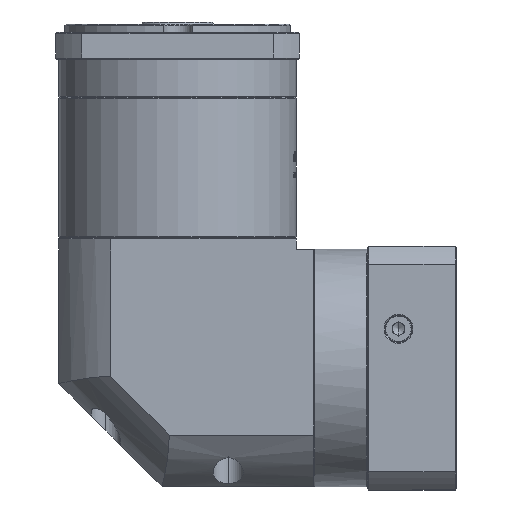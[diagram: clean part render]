
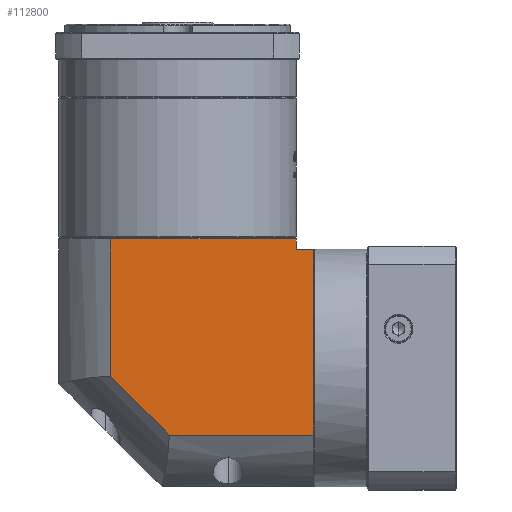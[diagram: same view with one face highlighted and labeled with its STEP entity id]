
A CAD part, left-side view. The second image highlights one B-rep face of the part: STEP entity #112800.
In plain terms, the highlighted planar face has unit normal (-1, 0, 0).
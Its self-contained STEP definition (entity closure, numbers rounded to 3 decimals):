
#6916 = VERTEX_POINT ( 'NONE', #132498 ) ;
#23974 = CARTESIAN_POINT ( 'NONE',  ( -266.518, -89.533, 87.796 ) ) ;
#23987 = CARTESIAN_POINT ( 'NONE',  ( -266.518, -89.533, 82.796 ) ) ;
#26627 = DIRECTION ( 'NONE',  ( 1., 0., 0. ) ) ;
#28039 = AXIS2_PLACEMENT_3D ( 'NONE', #125843, #26627, #65854 ) ;
#30611 = DIRECTION ( 'NONE',  ( 0., -1., 0. ) ) ;
#33558 = DIRECTION ( 'NONE',  ( 0., 0., 1. ) ) ;
#36029 = VERTEX_POINT ( 'NONE', #79298 ) ;
#40312 = CARTESIAN_POINT ( 'NONE',  ( -266.518, -97.933, 94.296 ) ) ;
#49388 = LINE ( 'NONE', #108680, #69126 ) ;
#52400 = EDGE_LOOP ( 'NONE', ( #82335, #117150, #139548, #153840, #148383, #62399, #103283 ) ) ;
#53737 = LINE ( 'NONE', #65193, #121242 ) ;
#55618 = CARTESIAN_POINT ( 'NONE',  ( -266.518, 0.367, 87.796 ) ) ;
#60024 = LINE ( 'NONE', #40312, #113699 ) ;
#62399 = ORIENTED_EDGE ( 'NONE', *, *, #104052, .T. ) ;
#63745 = EDGE_CURVE ( 'NONE', #161948, #137167, #81963, .T. ) ;
#65193 = CARTESIAN_POINT ( 'NONE',  ( -266.518, 25.467, -7.104 ) ) ;
#65854 = DIRECTION ( 'NONE',  ( 0., 1., 0. ) ) ;
#67203 = VERTEX_POINT ( 'NONE', #55618 ) ;
#68116 = VECTOR ( 'NONE', #33558, 1000. ) ;
#69126 = VECTOR ( 'NONE', #30611, 1000. ) ;
#74129 = VECTOR ( 'NONE', #119702, 1000. ) ;
#76337 = EDGE_CURVE ( 'NONE', #161948, #36029, #60024, .T. ) ;
#77976 = EDGE_CURVE ( 'NONE', #6916, #103941, #97206, .T. ) ;
#79298 = CARTESIAN_POINT ( 'NONE',  ( -266.518, -97.933, -7.104 ) ) ;
#81963 = LINE ( 'NONE', #23987, #139482 ) ;
#82335 = ORIENTED_EDGE ( 'NONE', *, *, #140641, .F. ) ;
#82894 = FACE_OUTER_BOUND ( 'NONE', #52400, .T. ) ;
#88614 = VERTEX_POINT ( 'NONE', #23974 ) ;
#94560 = CARTESIAN_POINT ( 'NONE',  ( -266.518, 0.367, 21.234 ) ) ;
#97206 = LINE ( 'NONE', #98172, #144672 ) ;
#98172 = CARTESIAN_POINT ( 'NONE',  ( -266.518, -27.971, -7.104 ) ) ;
#101326 = DIRECTION ( 'NONE',  ( 0., 1., 0. ) ) ;
#101896 = LINE ( 'NONE', #134905, #68116 ) ;
#103283 = ORIENTED_EDGE ( 'NONE', *, *, #154849, .F. ) ;
#103941 = VERTEX_POINT ( 'NONE', #94560 ) ;
#104052 = EDGE_CURVE ( 'NONE', #137167, #88614, #101896, .T. ) ;
#106450 = CARTESIAN_POINT ( 'NONE',  ( -266.518, 0.367, 94.296 ) ) ;
#108680 = CARTESIAN_POINT ( 'NONE',  ( -266.518, 25.467, 87.796 ) ) ;
#112800 = ADVANCED_FACE ( 'NONE', ( #82894 ), #148694, .F. ) ;
#113699 = VECTOR ( 'NONE', #129547, 1000. ) ;
#117150 = ORIENTED_EDGE ( 'NONE', *, *, #77976, .F. ) ;
#119702 = DIRECTION ( 'NONE',  ( 0., 0., 1. ) ) ;
#121242 = VECTOR ( 'NONE', #101326, 1000. ) ;
#122529 = DIRECTION ( 'NONE',  ( 0., 0.707, 0.707 ) ) ;
#125843 = CARTESIAN_POINT ( 'NONE',  ( -266.518, 25.467, 94.296 ) ) ;
#127432 = EDGE_CURVE ( 'NONE', #36029, #6916, #53737, .T. ) ;
#129547 = DIRECTION ( 'NONE',  ( 0., 0., -1. ) ) ;
#132498 = CARTESIAN_POINT ( 'NONE',  ( -266.518, -27.971, -7.104 ) ) ;
#134905 = CARTESIAN_POINT ( 'NONE',  ( -266.518, -89.533, -32.204 ) ) ;
#137167 = VERTEX_POINT ( 'NONE', #160351 ) ;
#139482 = VECTOR ( 'NONE', #163502, 1000. ) ;
#139548 = ORIENTED_EDGE ( 'NONE', *, *, #127432, .F. ) ;
#140609 = CARTESIAN_POINT ( 'NONE',  ( -266.518, -97.933, 82.796 ) ) ;
#140641 = EDGE_CURVE ( 'NONE', #103941, #67203, #163287, .T. ) ;
#144672 = VECTOR ( 'NONE', #122529, 1000. ) ;
#148383 = ORIENTED_EDGE ( 'NONE', *, *, #63745, .T. ) ;
#148694 = PLANE ( 'NONE',  #28039 ) ;
#153840 = ORIENTED_EDGE ( 'NONE', *, *, #76337, .F. ) ;
#154849 = EDGE_CURVE ( 'NONE', #67203, #88614, #49388, .T. ) ;
#160351 = CARTESIAN_POINT ( 'NONE',  ( -266.518, -89.533, 82.796 ) ) ;
#161948 = VERTEX_POINT ( 'NONE', #140609 ) ;
#163287 = LINE ( 'NONE', #106450, #74129 ) ;
#163502 = DIRECTION ( 'NONE',  ( 0., 1., 0. ) ) ;
